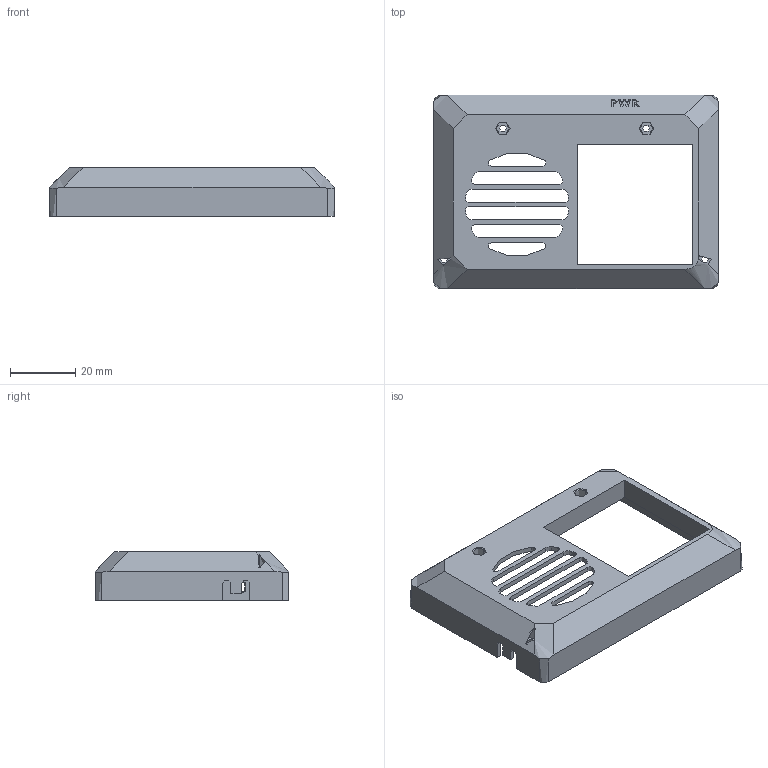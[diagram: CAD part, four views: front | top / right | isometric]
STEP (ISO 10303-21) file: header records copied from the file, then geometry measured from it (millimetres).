
FILE_DESCRIPTION (( 'STEP AP203' ), '1' );
FILE_NAME ('Edge2_Cover_RevB.STEP');
FILE_SCHEMA (( 'CONFIG_CONTROL_DESIGN' ));
Length unit declared in the file: millimetre
Products named in the file (1): Edge2_Cover_RevB
Bounding box: 87.5 x 59.5 x 15 mm (x, y, z)
Topology: 0 solids, 5 shells, 349 faces, 963 edges, 631 vertices
Faces by surface type: plane 175, cylinder 118, bspline 26, cone 18, torus 12
Full cylindrical faces by diameter (mm): 7 x1
Entity records: 12931 total; most frequent: CARTESIAN_POINT 4050, ORIENTED_EDGE 1920, DIRECTION 1738, EDGE_CURVE 960, VERTEX_POINT 626, VECTOR 594, LINE 594, AXIS2_PLACEMENT_3D 572
